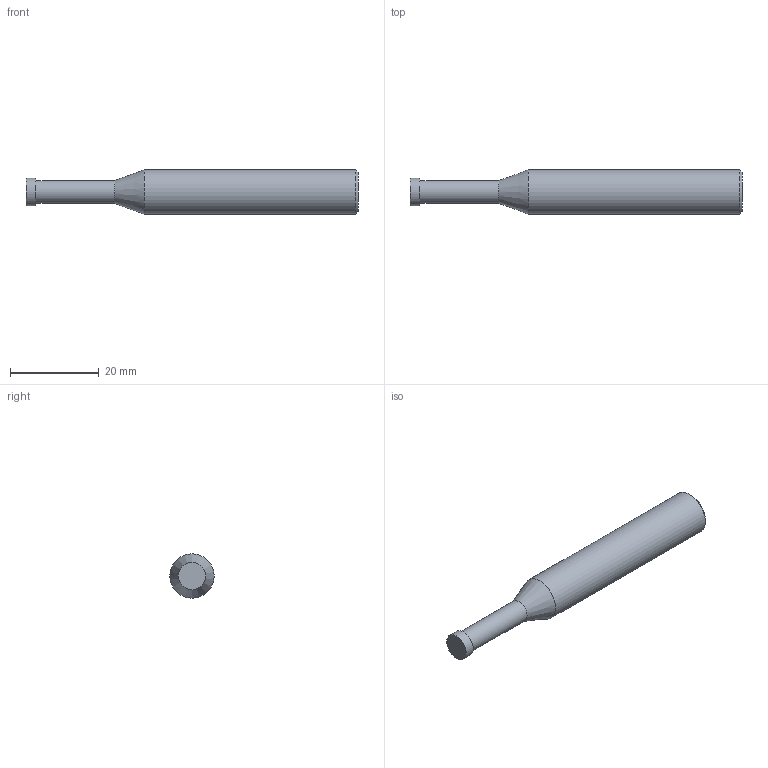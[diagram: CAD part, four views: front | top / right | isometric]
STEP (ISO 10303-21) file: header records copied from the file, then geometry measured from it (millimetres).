
FILE_DESCRIPTION(/* description */ (''),/* implementation_level */ '2;1');
FILE_NAME(/* name */ 'HSXDT-0.75-20 1075.stp',/* time_stamp */ '2026-02-24T08:41:15+08:00',/* author */ (''),/* organization */ (''),/* preprocessor_version */ 'ST-DEVELOPER v16',/* originating_system */ 'SIEMENS PLM Software NX 10.0',/* authorisation */ '');
FILE_SCHEMA (('CONFIG_CONTROL_DESIGN'));
Length unit declared in the file: millimetre
Products named in the file (1): HSXDT-0.75-20 1075_dxf
Bounding box: 75 x 10 x 10 mm (x, y, z)
Volume: 4540.8 mm3; surface area: 2126.9 mm2
Topology: 1 solids, 1 shells, 8 faces, 12 edges, 7 vertices
Faces by surface type: plane 3, cylinder 3, cone 2
Full cylindrical faces by diameter (mm): 5.15 x1, 6.2 x1, 10 x1
Entity records: 238 total; most frequent: DIRECTION 32, CARTESIAN_POINT 23, AXIS2_PLACEMENT_3D 16, EDGE_LOOP 14, ORIENTED_EDGE 14, FACE_BOUND 12, ADVANCED_FACE 8, PERSON_AND_ORGANIZATION 7
